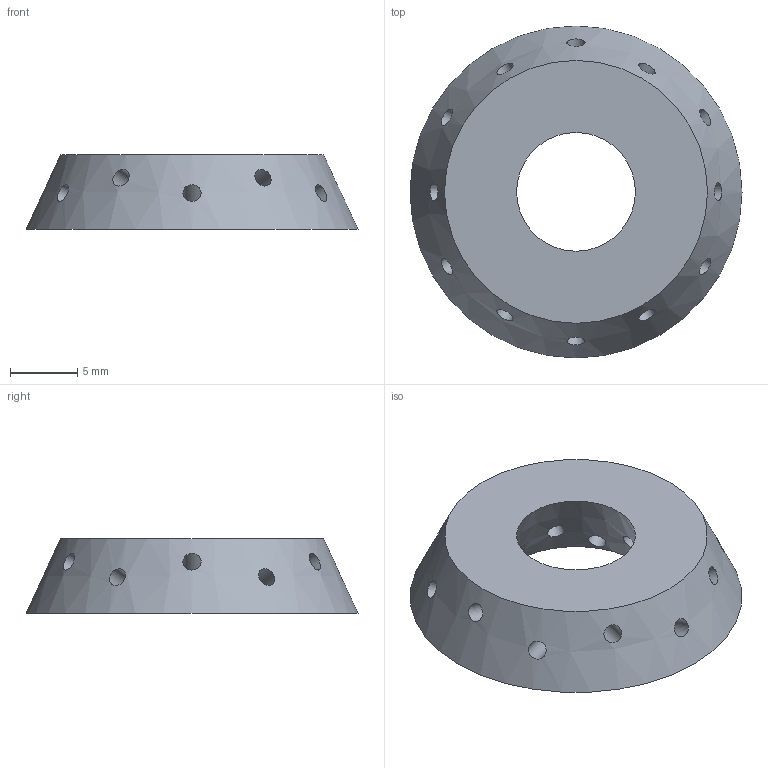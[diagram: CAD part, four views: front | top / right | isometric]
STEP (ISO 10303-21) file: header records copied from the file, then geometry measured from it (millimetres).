
FILE_DESCRIPTION(('FreeCAD Model'),'2;1');
FILE_NAME('Open CASCADE Shape Model','2026-10-09T19:41:39',(''),(''), 'Open CASCADE STEP processor 7.8','FreeCAD','Unknown');
FILE_SCHEMA(('AUTOMOTIVE_DESIGN { 1 0 10303 214 1 1 1 1 }'));
Length unit declared in the file: millimetre
Products named in the file (1): Body
Bounding box: 24.75 x 24.75 x 5.59 mm (x, y, z)
Volume: 1549.7 mm3; surface area: 1456.9 mm2
Topology: 1 solids, 1 shells, 16 faces, 48 edges, 32 vertices
Faces by surface type: cylinder 12, plane 2, cone 2
Full cylindrical faces by diameter (mm): 1.358 x12
Entity records: 2054 total; most frequent: CARTESIAN_POINT 1597, ORIENTED_EDGE 96, DIRECTION 58, EDGE_CURVE 48, FACE_BOUND 40, EDGE_LOOP 40, VERTEX_POINT 32, B_SPLINE_CURVE_WITH_KNOTS 28
